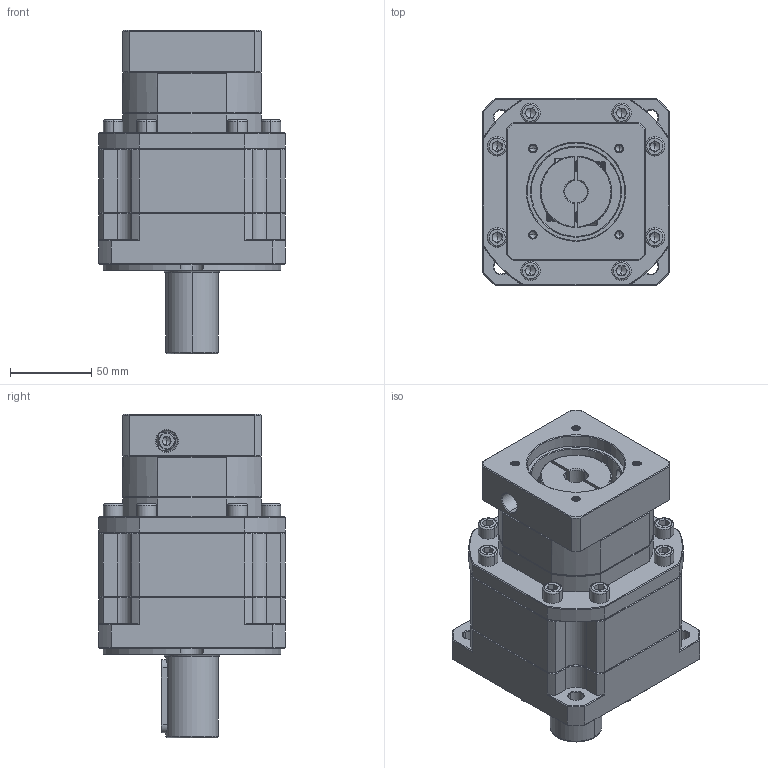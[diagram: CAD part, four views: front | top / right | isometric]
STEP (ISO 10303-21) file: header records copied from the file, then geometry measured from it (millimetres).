
FILE_DESCRIPTION (( 'STEP AP214' ), '1' );
FILE_NAME ('ZB115A-D32-L2-14-60-75-M5.step', '2023-03-03T09:54:40', ( '' ), ( 'Microsoft' ), 'SwSTEP 2.0', 'SolidWorks 2016', '' );
FILE_SCHEMA (( 'AUTOMOTIVE_DESIGN' ));
Length unit declared in the file: millimetre
Products named in the file (1): ZB115A-D32-L2-14-60-75-M5
Bounding box: 115 x 115 x 199 mm (x, y, z)
Volume: 1388305.2 mm3; surface area: 133083.5 mm2
Topology: 5 solids, 6 shells, 2139 faces, 5518 edges, 3476 vertices
Faces by surface type: plane 1006, cylinder 425, cone 364, bspline 329, torus 15
Entity records: 112804 total; most frequent: CARTESIAN_POINT 40129, ORIENTED_EDGE 10960, DIRECTION 8993, EDGE_CURVE 5480, VERTEX_POINT 3476, VECTOR 3421, LINE 3421, AXIS2_PLACEMENT_3D 2786
